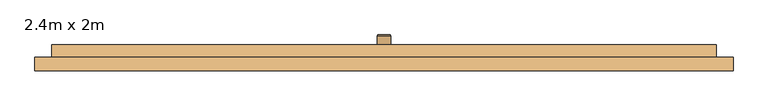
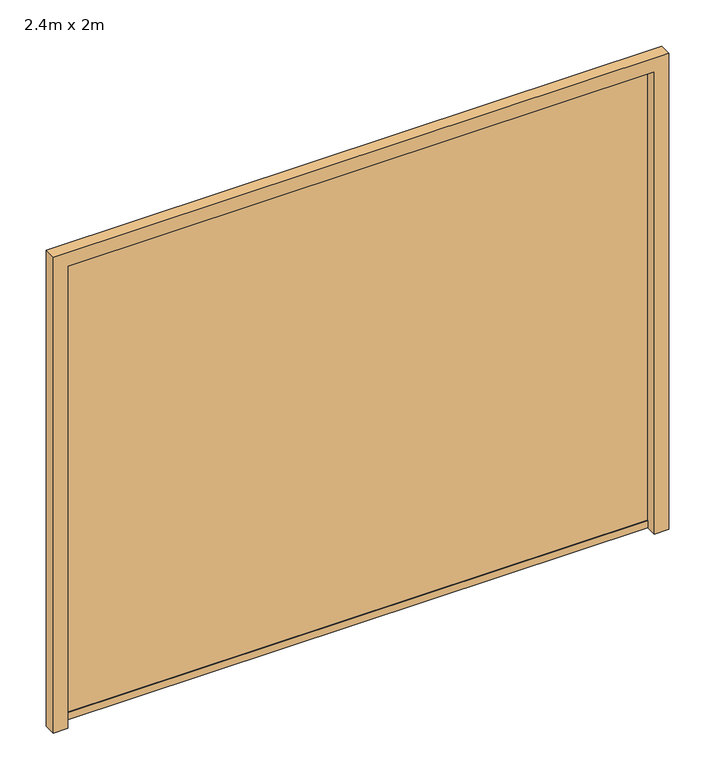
"""IFC4 building model written with IfcOpenShell, lengths in millimetres: door geometry, Garage basculante : 2.4m x 2m."""

import ifcopenshell
import ifcopenshell.guid

model = None  # the IFC model being written
_history = None  # IfcOwnerHistory: only IFC2X3 demands one
_inside = {}  # id of a spatial element -> (the spatial element, [elements in it])
_under = {}  # id of a project, library or spatial element -> (it, [spatial elements below it])
_declared = {}  # id of a project -> (the project, [libraries it declares])
_typed = {}  # id of a type object -> (the type object, [elements of that type])
_made_of = {}  # id of a material, layer set ... -> (it, [elements and type objects made of it])


def new_model(schema):
    """Start an empty IFC model of exactly this schema.

    Asked for "IFC4X3", IfcOpenShell would pick the latest addendum, in which some entities
    have other attributes; the version numbers below select the first issue.
    IFC2X3 requires an IfcOwnerHistory on every rooted entity: one is made here for all.
    """
    global model, _history
    if schema == "IFC4X3":
        model = ifcopenshell.file(schema_version=(4, 3, 0, 0))
    else:
        model = ifcopenshell.file(schema=schema)
    _inside.clear()
    _under.clear()
    _declared.clear()
    _typed.clear()
    _made_of.clear()
    _history = None
    if model.schema == "IFC2X3":
        org = make("IfcOrganization", Name="unknown")
        user = make(
            "IfcPersonAndOrganization",
            ThePerson=make("IfcPerson", FamilyName="unknown"),
            TheOrganization=org,
        )
        app = make(
            "IfcApplication",
            ApplicationDeveloper=org,
            Version="unknown",
            ApplicationFullName="unknown",
            ApplicationIdentifier="unknown",
        )
        _history = make(
            "IfcOwnerHistory",
            OwningUser=user,
            OwningApplication=app,
            ChangeAction="ADDED",
            CreationDate=0,
        )
    return model


def make(cls, **values):
    """One entity of the class cls with the attributes given. An attribute that is None is left unset."""
    return model.create_entity(
        cls, **{name: value for name, value in values.items() if value is not None}
    )


def rooted(cls, **values):
    """An entity with a GlobalId (a new one), such as an element, a storey or a relation."""
    return make(cls, GlobalId=ifcopenshell.guid.new(), OwnerHistory=_history, **values)


def si_unit(unit_type, name, prefix=None):
    """IfcSIUnit, for example si_unit("LENGTHUNIT", "METRE", prefix="MILLI")."""
    return make("IfcSIUnit", UnitType=unit_type, Prefix=prefix, Name=name)


def assignment(units):
    """IfcUnitAssignment: the units of a project."""
    return None if units is None else make("IfcUnitAssignment", Units=units)


def point(xyz):
    """IfcCartesianPoint."""
    return None if xyz is None else make("IfcCartesianPoint", Coordinates=xyz)


def direction(xyz):
    """IfcDirection."""
    return None if xyz is None else make("IfcDirection", DirectionRatios=xyz)


def frame(location, z_axis=None, x_axis=None):
    """IfcAxis2Placement3D, a coordinate frame: its origin and axes. An axis left out is left unset."""
    return make(
        "IfcAxis2Placement3D",
        Location=point(location),
        Axis=direction(z_axis),
        RefDirection=direction(x_axis),
    )


def origin():
    """The frame at (0, 0, 0) with its axes left unset."""
    return frame((0.0, 0.0, 0.0))


def place(relative_to, where):
    """IfcLocalPlacement: puts the frame where relative to a parent placement (None: the world)."""
    return make(
        "IfcLocalPlacement", PlacementRelTo=relative_to, RelativePlacement=where
    )


def context(
    kind, dimensions, precision=None, world=None, true_north=None, identifier=None
):
    """IfcGeometricRepresentationContext, for example the 3D "Model" context."""
    return make(
        "IfcGeometricRepresentationContext",
        ContextIdentifier=identifier,
        ContextType=kind,
        CoordinateSpaceDimension=dimensions,
        Precision=precision,
        WorldCoordinateSystem=world,
        TrueNorth=true_north,
    )


def project(units=None, contexts=None):
    """IfcProject with its units and contexts."""
    return rooted(
        "IfcProject",
        Name="project",
        RepresentationContexts=contexts,
        UnitsInContext=assignment(units),
    )


def spatial(cls, under=None, at=None, **own):
    """A site, building, storey or space (cls), placed at a placement, below another one or the project."""
    s = rooted(cls, ObjectPlacement=at, **own)
    if under is not None:
        _under.setdefault(under.id(), (under, []))[1].append(s)
    return s


def polyline(points):
    """IfcPolyline through the points."""
    return make("IfcPolyline", Points=[point(p) for p in points])


def circle_curve(where, radius):
    """IfcCircle in the frame where."""
    return make("IfcCircle", Position=where, Radius=radius)


def outline(outer, holes=None, kind="AREA"):
    """IfcArbitraryClosedProfileDef: a profile drawn as a closed curve; with holes, ...WithVoids."""
    if holes is None:
        return make("IfcArbitraryClosedProfileDef", ProfileType=kind, OuterCurve=outer)
    return make(
        "IfcArbitraryProfileDefWithVoids",
        ProfileType=kind,
        OuterCurve=outer,
        InnerCurves=holes,
    )


def extrude(swept, where, along, depth):
    """IfcExtrudedAreaSolid: the profile swept, set in the frame where, extruded along a direction by depth."""
    return make(
        "IfcExtrudedAreaSolid",
        SweptArea=swept,
        Position=where,
        ExtrudedDirection=direction(along),
        Depth=depth,
    )


def faces_of(points, faces, orient=None, outer=None):
    """IfcFace entities. A face is a list of loops; a loop is a list of indices into points, from 0.

    orient and outer hold one flag for each loop. By default every Orientation is true, the
    first loop of a face is its IfcFaceOuterBound and the others are IfcFaceBound.
    """
    made = []
    for i, loops in enumerate(faces):
        bounds = []
        for j, loop in enumerate(loops):
            is_outer = j == 0 if outer is None else outer[i][j]
            bounds.append(
                make(
                    "IfcFaceOuterBound" if is_outer else "IfcFaceBound",
                    Bound=make("IfcPolyLoop", Polygon=[points[k] for k in loop]),
                    Orientation=True if orient is None else orient[i][j],
                )
            )
        made.append(make("IfcFace", Bounds=bounds))
    return made


def faceted_brep(points, faces, orient=None, outer=None, voids=None):
    """IfcFacetedBrep: a solid bounded by flat faces; with voids (closed shells), ...WithVoids."""
    shared = [point(p) for p in points]
    hull = make("IfcClosedShell", CfsFaces=faces_of(shared, faces, orient, outer))
    if voids is None:
        return make("IfcFacetedBrep", Outer=hull)
    return make(
        "IfcFacetedBrepWithVoids",
        Outer=hull,
        Voids=[
            make(cls, CfsFaces=faces_of(shared, fs, o, b)) for cls, fs, o, b in voids
        ],
    )


def shape(context_of_items, identifier, shape_type, items):
    """IfcShapeRepresentation: the items that make up one representation, for example the "Body"."""
    return make(
        "IfcShapeRepresentation",
        ContextOfItems=context_of_items,
        RepresentationIdentifier=identifier,
        RepresentationType=shape_type,
        Items=items,
    )


def source(mapping_origin, context_of_items, identifier, shape_type, items):
    """IfcRepresentationMap: a shape defined once, which mapped items show again and again."""
    return make(
        "IfcRepresentationMap",
        MappingOrigin=mapping_origin,
        MappedRepresentation=shape(context_of_items, identifier, shape_type, items),
    )


def transform(
    local_origin,
    x_axis=None,
    y_axis=None,
    z_axis=None,
    scale=None,
    scale2=None,
    scale3=None,
    uniform=True,
):
    """IfcCartesianTransformationOperator3D, or its non-uniform kind. x_axis, y_axis, z_axis: its Axis1, 2, 3."""
    if uniform:
        return make(
            "IfcCartesianTransformationOperator3D",
            Axis1=direction(x_axis),
            Axis2=direction(y_axis),
            LocalOrigin=point(local_origin),
            Scale=scale,
            Axis3=direction(z_axis),
        )
    return make(
        "IfcCartesianTransformationOperator3DnonUniform",
        Axis1=direction(x_axis),
        Axis2=direction(y_axis),
        LocalOrigin=point(local_origin),
        Scale=scale,
        Axis3=direction(z_axis),
        Scale2=scale2,
        Scale3=scale3,
    )


def mapped(mapping_source, mapping_target):
    """IfcMappedItem: shows the shape of a source again, moved by a transform."""
    return make(
        "IfcMappedItem", MappingSource=mapping_source, MappingTarget=mapping_target
    )


def made_of(thing, what):
    """Note that an element or type object is made of a material, layer set ...; save() writes the relation."""
    if what is not None:
        _made_of.setdefault(what.id(), (what, []))[1].append(thing)
    return thing


def element(
    cls,
    number,
    at=None,
    inside=None,
    cuts=None,
    type_object=None,
    material=None,
    context=None,
    identifier="Body",
    shape_type=None,
    held_by="IfcProductDefinitionShape",
    body=None,
    shapes=None,
    **own,
):
    """One element of the class cls, such as IfcWall. Its Tag is "e" and its number.

    at: its placement. inside: the storey or other place that contains it. cuts: it is an
    opening in that element (IfcRelVoidsElement). A single representation is given by context,
    identifier, shape_type and body (its items); several are given by shapes. held_by: the class
    of the entity that holds the representations. save() writes the other relations.
    """
    e = rooted(cls, Tag="e%d" % number, ObjectPlacement=at, **own)
    if body is not None:
        shapes = [shape(context, identifier, shape_type, body)]
    if shapes is not None:
        e.Representation = make(held_by, Representations=shapes)
    if inside is not None:
        _inside.setdefault(inside.id(), (inside, []))[1].append(e)
    if cuts is not None:
        rooted(
            "IfcRelVoidsElement", RelatingBuildingElement=cuts, RelatedOpeningElement=e
        )
    if type_object is not None:
        _typed.setdefault(type_object.id(), (type_object, []))[1].append(e)
    return made_of(e, material)


def aggregate(whole, parts):
    """IfcRelAggregates: a whole, such as a stair, and the parts it consists of."""
    return rooted("IfcRelAggregates", RelatingObject=whole, RelatedObjects=parts)


def save(model, path):
    """Write the relations noted so far, then the file.

    IfcRelAggregates (storeys below a building ...), IfcRelContainedInSpatialStructure (elements
    in a storey), IfcRelDefinesByType, IfcRelAssociatesMaterial and IfcRelDeclares: one each for
    every whole, place, type object, material and project.
    """
    for whole, parts in _under.values():
        aggregate(whole, parts)
    for where, things in _inside.values():
        rooted(
            "IfcRelContainedInSpatialStructure",
            RelatedElements=things,
            RelatingStructure=where,
        )
    for kind, things in _typed.values():
        rooted("IfcRelDefinesByType", RelatedObjects=things, RelatingType=kind)
    for what, things in _made_of.values():
        rooted("IfcRelAssociatesMaterial", RelatedObjects=things, RelatingMaterial=what)
    for by, libraries in _declared.values():
        rooted("IfcRelDeclares", RelatingContext=by, RelatedDefinitions=libraries)
    model.write(path)


def plane_surface(at):
    """IfcPlane: the flat surface through the origin of the frame at, square to its z axis."""
    return make("IfcPlane", Position=at)


def cylinder_surface(at, radius):
    """IfcCylindricalSurface: all points at the distance radius from the z axis of the frame at."""
    return make("IfcCylindricalSurface", Position=at, Radius=radius)


def revolved_surface(curve, axis_point, axis_direction):
    """IfcSurfaceOfRevolution: the curve turned about the line through axis_point along axis_direction."""
    return make(
        "IfcSurfaceOfRevolution",
        SweptCurve=make("IfcArbitraryOpenProfileDef", ProfileType="CURVE", Curve=curve),
        AxisPosition=make("IfcAxis1Placement", Location=point(axis_point), Axis=direction(axis_direction)),
    )


def advanced_brep(points, edges, surfaces, faces):
    """IfcAdvancedBrep: a solid bounded by faces that lie on surfaces and meet in shared edges.

    An edge is (start, end): straight between two places in points (the first is 0);
    or (start, end, curve); or (start, end, curve, False) where it runs against its curve.
    A face is (place in surfaces, loops), or (place, loops, False) where it looks against
    its surface's normal. A loop lists edges by number (the first is 1), with a minus sign
    where the edge is run from its end to its start. The first loop is the outer one.
    """
    corners = [point(p) for p in points]
    vertices = [make("IfcVertexPoint", VertexGeometry=c) for c in corners]
    made = []
    for start, end, *more in edges:
        made.append(
            make(
                "IfcEdgeCurve",
                EdgeStart=vertices[start],
                EdgeEnd=vertices[end],
                EdgeGeometry=more[0] if more else make("IfcPolyline", Points=[corners[start], corners[end]]),
                SameSense=more[1] if len(more) > 1 else True,
            )
        )
    hull = []
    for where, loops, *sense in faces:
        bounds = []
        for j, loop in enumerate(loops):
            ring = [make("IfcOrientedEdge", EdgeElement=made[abs(k) - 1], Orientation=k > 0) for k in loop]
            bounds.append(
                make(
                    "IfcFaceOuterBound" if j == 0 else "IfcFaceBound",
                    Bound=make("IfcEdgeLoop", EdgeList=ring),
                    Orientation=True,
                )
            )
        hull.append(make("IfcAdvancedFace", Bounds=bounds, FaceSurface=surfaces[where], SameSense=sense[0] if sense else True))
    return make("IfcAdvancedBrep", Outer=make("IfcClosedShell", CfsFaces=hull))


def door_2_4m_x_2m_68821987(model_context):
    return source(origin(), model_context, "Body", "SolidModel", [
        advanced_brep(
        [(-37.902088, -383.5523258, 500.0), (7.902088, -383.5523258, 500.0), (10.0, -385.6502378, 500.0), (-40.0, -385.6502378, 500.0), (-15.0, -383.5523258, 500.0), (-40.0, -423.5523258, 500.0), (10.0, -423.5523258, 500.0), (-15.0, -423.5523258, 500.0)],
        [
            (0, 1, circle_curve(frame((-15.0, -383.5523258, 500.0), z_axis=(0.0, -1.0, 0.0), x_axis=(1.0, 0.0, 0.0)), 22.902088)),
            (1, 2),
            (2, 3, circle_curve(frame((-15.0, -385.6502378, 500.0), z_axis=(0.0, 1.0, 0.0), x_axis=(1.0, 0.0, 0.0)), 25.0)),
            (3, 0),
            (1, 0, circle_curve(frame((-15.0, -383.5523258, 500.0), z_axis=(0.0, -1.0, 0.0), x_axis=(1.0, 0.0, 0.0)), 22.902088)),
            (3, 2, circle_curve(frame((-15.0, -385.6502378, 500.0), z_axis=(0.0, 1.0, 0.0), x_axis=(1.0, 0.0, 0.0)), 25.0)),
            (4, 1),
            (0, 4),
            (5, 6, circle_curve(frame((-15.0, -423.5523258, 500.0), z_axis=(0.0, -1.0, 0.0), x_axis=(1.0, 0.0, 0.0)), 25.0)),
            (6, 7),
            (7, 5),
            (6, 5, circle_curve(frame((-15.0, -423.5523258, 500.0), z_axis=(0.0, -1.0, 0.0), x_axis=(1.0, 0.0, 0.0)), 25.0)),
            (2, 6),
            (5, 3),
        ],
        [
            revolved_surface(polyline([(10.0, -385.6502378, 500.0), (7.902088, -383.5523258, 500.0)]), (-15.0, 971.1651436, 500.0), (0.0, 1.0, 0.0)),
            plane_surface(frame((-15.0, -383.5523258, 500.0), z_axis=(0.0, 1.0, 0.0), x_axis=(1.0, 0.0, 0.0))),
            plane_surface(frame((-15.0, -423.5523258, 500.0), z_axis=(0.0, -1.0, 0.0), x_axis=(1.0, 0.0, 0.0))),
            cylinder_surface(frame((-15.0, 971.1651436, 500.0), z_axis=(0.0, 1.0, 0.0), x_axis=(1.0, 0.0, 0.0)), 25.0),
        ],
        [
            (0, [[1, 2, 3, 4]]),
            (0, [[5, -4, 6, -2]]),
            (1, [[7, -1, 8]]),
            (1, [[-8, -5, -7]]),
            (2, [[9, 10, 11]]),
            (2, [[12, -11, -10]]),
            (3, [[-3, 13, -9, 14]]),
            (3, [[-6, -14, -12, -13]]),
        ],
    ),
        faceted_brep([(-1215.0, -468.5523258, 2000.0), (1185.0, -468.5523258, 2000.0), (1185.0, -418.5523258, 2000.0), (-1215.0, -418.5523258, 2000.0), (1185.0, -468.5523258, 0.0), (-1215.0, -468.5523258, 0.0), (-1215.0, -418.5523258, 0.0), (1185.0, -418.5523258, 0.0), (1117.5806452, -433.5523258, 1970.0), (1117.5806452, -433.5523258, 30.0), (1097.5806452, -433.5523258, 30.0), (1097.5806452, -433.5523258, 1970.0), (1097.5806452, -423.5523258, 30.0), (1097.5806452, -423.5523258, 1970.0), (1040.1612903, -423.5523258, 30.0), (1040.1612903, -423.5523258, 1970.0), (1040.1612903, -433.5523258, 30.0), (1040.1612903, -433.5523258, 1970.0), (1020.1612903, -433.5523258, 30.0), (1020.1612903, -433.5523258, 1970.0), (1020.1612903, -423.5523258, 30.0), (1020.1612903, -423.5523258, 1970.0), (962.7419355, -423.5523258, 30.0), (962.7419355, -423.5523258, 1970.0), (962.7419355, -433.5523258, 30.0), (962.7419355, -433.5523258, 1970.0), (942.7419355, -433.5523258, 30.0), (942.7419355, -433.5523258, 1970.0), (942.7419355, -423.5523258, 30.0), (942.7419355, -423.5523258, 1970.0), (885.3225806, -423.5523258, 30.0), (885.3225806, -423.5523258, 1970.0), (885.3225806, -433.5523258, 30.0), (885.3225806, -433.5523258, 1970.0), (865.3225806, -433.5523258, 30.0), (865.3225806, -433.5523258, 1970.0), (865.3225806, -423.5523258, 30.0), (865.3225806, -423.5523258, 1970.0), (807.9032258, -423.5523258, 30.0), (807.9032258, -423.5523258, 1970.0), (807.9032258, -433.5523258, 30.0), (807.9032258, -433.5523258, 1970.0), (787.9032258, -433.5523258, 30.0), (787.9032258, -433.5523258, 1970.0), (787.9032258, -423.5523258, 30.0), (787.9032258, -423.5523258, 1970.0), (730.483871, -423.5523258, 30.0), (730.483871, -423.5523258, 1970.0), (730.483871, -433.5523258, 30.0), (730.483871, -433.5523258, 1970.0), (710.483871, -433.5523258, 30.0), (710.483871, -433.5523258, 1970.0), (710.483871, -423.5523258, 30.0), (710.483871, -423.5523258, 1970.0), (653.0645161, -423.5523258, 30.0), (653.0645161, -423.5523258, 1970.0), (653.0645161, -433.5523258, 30.0), (653.0645161, -433.5523258, 1970.0), (633.0645161, -433.5523258, 30.0), (633.0645161, -433.5523258, 1970.0), (633.0645161, -423.5523258, 30.0), (633.0645161, -423.5523258, 1970.0), (575.6451613, -423.5523258, 30.0), (575.6451613, -423.5523258, 1970.0), (575.6451613, -433.5523258, 30.0), (575.6451613, -433.5523258, 1970.0), (555.6451613, -433.5523258, 30.0), (555.6451613, -433.5523258, 1970.0), (555.6451613, -423.5523258, 30.0), (555.6451613, -423.5523258, 1970.0), (498.2258065, -423.5523258, 30.0), (498.2258065, -423.5523258, 1970.0), (498.2258065, -433.5523258, 30.0), (498.2258065, -433.5523258, 1970.0), (478.2258065, -433.5523258, 30.0), (478.2258065, -433.5523258, 1970.0), (478.2258065, -423.5523258, 30.0), (478.2258065, -423.5523258, 1970.0), (420.8064516, -423.5523258, 30.0), (420.8064516, -423.5523258, 1970.0), (420.8064516, -433.5523258, 30.0), (420.8064516, -433.5523258, 1970.0), (400.8064516, -433.5523258, 30.0), (400.8064516, -433.5523258, 1970.0), (400.8064516, -423.5523258, 30.0), (400.8064516, -423.5523258, 1970.0), (343.3870968, -423.5523258, 30.0), (343.3870968, -423.5523258, 1970.0), (343.3870968, -433.5523258, 30.0), (343.3870968, -433.5523258, 1970.0), (323.3870968, -433.5523258, 30.0), (323.3870968, -433.5523258, 1970.0), (323.3870968, -423.5523258, 30.0), (323.3870968, -423.5523258, 1970.0), (265.9677419, -423.5523258, 30.0), (265.9677419, -423.5523258, 1970.0), (265.9677419, -433.5523258, 30.0), (265.9677419, -433.5523258, 1970.0), (245.9677419, -433.5523258, 30.0), (245.9677419, -433.5523258, 1970.0), (245.9677419, -423.5523258, 30.0), (245.9677419, -423.5523258, 1970.0), (188.5483871, -423.5523258, 30.0), (188.5483871, -423.5523258, 1970.0), (188.5483871, -433.5523258, 30.0), (188.5483871, -433.5523258, 1970.0), (168.5483871, -433.5523258, 30.0), (168.5483871, -433.5523258, 1970.0), (168.5483871, -423.5523258, 30.0), (168.5483871, -423.5523258, 1970.0), (111.1290323, -423.5523258, 30.0), (111.1290323, -423.5523258, 1970.0), (111.1290323, -433.5523258, 30.0), (111.1290323, -433.5523258, 1970.0), (91.1290323, -433.5523258, 30.0), (91.1290323, -433.5523258, 1970.0), (91.1290323, -423.5523258, 30.0), (91.1290323, -423.5523258, 1970.0), (33.7096774, -423.5523258, 30.0), (33.7096774, -423.5523258, 1970.0), (33.7096774, -433.5523258, 30.0), (33.7096774, -433.5523258, 1970.0), (13.7096774, -433.5523258, 30.0), (13.7096774, -433.5523258, 1970.0), (13.7096774, -423.5523258, 30.0), (13.7096774, -423.5523258, 1970.0), (-43.7096774, -423.5523258, 30.0), (-43.7096774, -423.5523258, 1970.0), (-43.7096774, -433.5523258, 30.0), (-43.7096774, -433.5523258, 1970.0), (-63.7096774, -433.5523258, 30.0), (-63.7096774, -433.5523258, 1970.0), (-63.7096774, -423.5523258, 30.0), (-63.7096774, -423.5523258, 1970.0), (-121.1290323, -423.5523258, 30.0), (-121.1290323, -423.5523258, 1970.0), (-121.1290323, -433.5523258, 30.0), (-121.1290323, -433.5523258, 1970.0), (-141.1290323, -433.5523258, 30.0), (-141.1290323, -433.5523258, 1970.0), (-141.1290323, -423.5523258, 30.0), (-141.1290323, -423.5523258, 1970.0), (-198.5483871, -423.5523258, 30.0), (-198.5483871, -423.5523258, 1970.0), (-198.5483871, -433.5523258, 30.0), (-198.5483871, -433.5523258, 1970.0), (-218.5483871, -433.5523258, 30.0), (-218.5483871, -433.5523258, 1970.0), (-218.5483871, -423.5523258, 30.0), (-218.5483871, -423.5523258, 1970.0), (-275.9677419, -423.5523258, 30.0), (-275.9677419, -423.5523258, 1970.0), (-275.9677419, -433.5523258, 30.0), (-275.9677419, -433.5523258, 1970.0), (-295.9677419, -433.5523258, 30.0), (-295.9677419, -433.5523258, 1970.0), (-295.9677419, -423.5523258, 30.0), (-295.9677419, -423.5523258, 1970.0), (-353.3870968, -423.5523258, 30.0), (-353.3870968, -423.5523258, 1970.0), (-353.3870968, -433.5523258, 30.0), (-353.3870968, -433.5523258, 1970.0), (-373.3870968, -433.5523258, 30.0), (-373.3870968, -433.5523258, 1970.0), (-373.3870968, -423.5523258, 30.0), (-373.3870968, -423.5523258, 1970.0), (-430.8064516, -423.5523258, 30.0), (-430.8064516, -423.5523258, 1970.0), (-430.8064516, -433.5523258, 30.0), (-430.8064516, -433.5523258, 1970.0), (-450.8064516, -433.5523258, 30.0), (-450.8064516, -433.5523258, 1970.0), (-450.8064516, -423.5523258, 30.0), (-450.8064516, -423.5523258, 1970.0), (-508.2258065, -423.5523258, 30.0), (-508.2258065, -423.5523258, 1970.0), (-508.2258065, -433.5523258, 30.0), (-508.2258065, -433.5523258, 1970.0), (-528.2258065, -433.5523258, 30.0), (-528.2258065, -433.5523258, 1970.0), (-528.2258065, -423.5523258, 30.0), (-528.2258065, -423.5523258, 1970.0), (-585.6451613, -423.5523258, 30.0), (-585.6451613, -423.5523258, 1970.0), (-585.6451613, -433.5523258, 30.0), (-585.6451613, -433.5523258, 1970.0), (-605.6451613, -433.5523258, 30.0), (-605.6451613, -433.5523258, 1970.0), (-605.6451613, -423.5523258, 30.0), (-605.6451613, -423.5523258, 1970.0), (-663.0645161, -423.5523258, 30.0), (-663.0645161, -423.5523258, 1970.0), (-663.0645161, -433.5523258, 30.0), (-663.0645161, -433.5523258, 1970.0), (-683.0645161, -433.5523258, 30.0), (-683.0645161, -433.5523258, 1970.0), (-683.0645161, -423.5523258, 30.0), (-683.0645161, -423.5523258, 1970.0), (-740.483871, -423.5523258, 30.0), (-740.483871, -423.5523258, 1970.0), (-740.483871, -433.5523258, 30.0), (-740.483871, -433.5523258, 1970.0), (-760.483871, -433.5523258, 30.0), (-760.483871, -433.5523258, 1970.0), (-760.483871, -423.5523258, 30.0), (-760.483871, -423.5523258, 1970.0), (-817.9032258, -423.5523258, 30.0), (-817.9032258, -423.5523258, 1970.0), (-817.9032258, -433.5523258, 30.0), (-817.9032258, -433.5523258, 1970.0), (-837.9032258, -433.5523258, 30.0), (-837.9032258, -433.5523258, 1970.0), (-837.9032258, -423.5523258, 30.0), (-837.9032258, -423.5523258, 1970.0), (-895.3225806, -423.5523258, 30.0), (-895.3225806, -423.5523258, 1970.0), (-895.3225806, -433.5523258, 30.0), (-895.3225806, -433.5523258, 1970.0), (-915.3225806, -433.5523258, 30.0), (-915.3225806, -433.5523258, 1970.0), (-915.3225806, -423.5523258, 30.0), (-915.3225806, -423.5523258, 1970.0), (-972.7419355, -423.5523258, 30.0), (-972.7419355, -423.5523258, 1970.0), (-972.7419355, -433.5523258, 30.0), (-972.7419355, -433.5523258, 1970.0), (-992.7419355, -433.5523258, 30.0), (-992.7419355, -433.5523258, 1970.0), (-992.7419355, -423.5523258, 30.0), (-992.7419355, -423.5523258, 1970.0), (-1050.1612903, -423.5523258, 30.0), (-1050.1612903, -423.5523258, 1970.0), (-1050.1612903, -433.5523258, 30.0), (-1050.1612903, -433.5523258, 1970.0), (-1070.1612903, -433.5523258, 30.0), (-1070.1612903, -433.5523258, 1970.0), (-1070.1612903, -423.5523258, 30.0), (-1070.1612903, -423.5523258, 1970.0), (-1127.5806452, -423.5523258, 30.0), (-1127.5806452, -423.5523258, 1970.0), (-1127.5806452, -433.5523258, 30.0), (-1127.5806452, -433.5523258, 1970.0), (-1147.5806452, -433.5523258, 30.0), (-1147.5806452, -433.5523258, 1970.0), (-1147.5806452, -423.5523258, 30.0), (-1147.5806452, -423.5523258, 1970.0), (-1215.0, -423.5523258, 30.0), (-1215.0, -423.5523258, 1970.0), (-1215.0, -418.5523258, 1970.0), (-1215.0, -418.5523258, 30.0), (-1215.0, -468.5523258, 30.0), (-1215.0, -463.5523258, 30.0), (-1215.0, -463.5523258, 1970.0), (-1215.0, -468.5523258, 1970.0), (1185.0, -463.5523258, 30.0), (1185.0, -463.5523258, 1970.0), (1185.0, -468.5523258, 1970.0), (1185.0, -468.5523258, 30.0), (1185.0, -418.5523258, 30.0), (1185.0, -423.5523258, 30.0), (1185.0, -423.5523258, 1970.0), (1185.0, -418.5523258, 1970.0), (1117.5806452, -423.5523258, 30.0), (1117.5806452, -423.5523258, 1970.0)], [[[0, 1, 2, 3]], [[4, 5, 6, 7]], [[8, 9, 10, 11]], [[11, 10, 12, 13]], [[13, 12, 14, 15]], [[15, 14, 16, 17]], [[17, 16, 18, 19]], [[19, 18, 20, 21]], [[21, 20, 22, 23]], [[23, 22, 24, 25]], [[25, 24, 26, 27]], [[27, 26, 28, 29]], [[29, 28, 30, 31]], [[31, 30, 32, 33]], [[33, 32, 34, 35]], [[35, 34, 36, 37]], [[37, 36, 38, 39]], [[39, 38, 40, 41]], [[41, 40, 42, 43]], [[43, 42, 44, 45]], [[45, 44, 46, 47]], [[47, 46, 48, 49]], [[49, 48, 50, 51]], [[51, 50, 52, 53]], [[53, 52, 54, 55]], [[55, 54, 56, 57]], [[57, 56, 58, 59]], [[59, 58, 60, 61]], [[61, 60, 62, 63]], [[63, 62, 64, 65]], [[65, 64, 66, 67]], [[67, 66, 68, 69]], [[69, 68, 70, 71]], [[71, 70, 72, 73]], [[73, 72, 74, 75]], [[75, 74, 76, 77]], [[77, 76, 78, 79]], [[79, 78, 80, 81]], [[81, 80, 82, 83]], [[83, 82, 84, 85]], [[85, 84, 86, 87]], [[87, 86, 88, 89]], [[89, 88, 90, 91]], [[91, 90, 92, 93]], [[93, 92, 94, 95]], [[95, 94, 96, 97]], [[97, 96, 98, 99]], [[99, 98, 100, 101]], [[101, 100, 102, 103]], [[103, 102, 104, 105]], [[105, 104, 106, 107]], [[107, 106, 108, 109]], [[109, 108, 110, 111]], [[111, 110, 112, 113]], [[113, 112, 114, 115]], [[115, 114, 116, 117]], [[117, 116, 118, 119]], [[119, 118, 120, 121]], [[121, 120, 122, 123]], [[123, 122, 124, 125]], [[125, 124, 126, 127]], [[127, 126, 128, 129]], [[129, 128, 130, 131]], [[131, 130, 132, 133]], [[133, 132, 134, 135]], [[135, 134, 136, 137]], [[137, 136, 138, 139]], [[139, 138, 140, 141]], [[141, 140, 142, 143]], [[143, 142, 144, 145]], [[145, 144, 146, 147]], [[147, 146, 148, 149]], [[149, 148, 150, 151]], [[151, 150, 152, 153]], [[153, 152, 154, 155]], [[155, 154, 156, 157]], [[157, 156, 158, 159]], [[159, 158, 160, 161]], [[161, 160, 162, 163]], [[163, 162, 164, 165]], [[165, 164, 166, 167]], [[167, 166, 168, 169]], [[169, 168, 170, 171]], [[171, 170, 172, 173]], [[173, 172, 174, 175]], [[175, 174, 176, 177]], [[177, 176, 178, 179]], [[179, 178, 180, 181]], [[181, 180, 182, 183]], [[183, 182, 184, 185]], [[185, 184, 186, 187]], [[187, 186, 188, 189]], [[189, 188, 190, 191]], [[191, 190, 192, 193]], [[193, 192, 194, 195]], [[195, 194, 196, 197]], [[197, 196, 198, 199]], [[199, 198, 200, 201]], [[201, 200, 202, 203]], [[203, 202, 204, 205]], [[205, 204, 206, 207]], [[207, 206, 208, 209]], [[209, 208, 210, 211]], [[211, 210, 212, 213]], [[213, 212, 214, 215]], [[215, 214, 216, 217]], [[217, 216, 218, 219]], [[219, 218, 220, 221]], [[221, 220, 222, 223]], [[223, 222, 224, 225]], [[225, 224, 226, 227]], [[227, 226, 228, 229]], [[229, 228, 230, 231]], [[231, 230, 232, 233]], [[233, 232, 234, 235]], [[235, 234, 236, 237]], [[237, 236, 238, 239]], [[239, 238, 240, 241]], [[241, 240, 242, 243]], [[243, 242, 244, 245]], [[245, 244, 246, 247]], [[0, 3, 248, 247, 246, 249, 6, 5, 250, 251, 252, 253]], [[252, 251, 254, 255]], [[2, 1, 256, 255, 254, 257, 4, 7, 258, 259, 260, 261]], [[260, 259, 262, 263]], [[9, 8, 263, 262]], [[256, 253, 252, 255]], [[248, 261, 260, 263, 8, 11, 13, 15, 17, 19, 21, 23, 25, 27, 29, 31, 33, 35, 37, 39, 41, 43, 45, 47, 49, 51, 53, 55, 57, 59, 61, 63, 65, 67, 69, 71, 73, 75, 77, 79, 81, 83, 85, 87, 89, 91, 93, 95, 97, 99, 101, 103, 105, 107, 109, 111, 113, 115, 117, 119, 121, 123, 125, 127, 129, 131, 133, 135, 137, 139, 141, 143, 145, 147, 149, 151, 153, 155, 157, 159, 161, 163, 165, 167, 169, 171, 173, 175, 177, 179, 181, 183, 185, 187, 189, 191, 193, 195, 197, 199, 201, 203, 205, 207, 209, 211, 213, 215, 217, 219, 221, 223, 225, 227, 229, 231, 233, 235, 237, 239, 241, 243, 245, 247]], [[2, 261, 248, 3]], [[256, 1, 0, 253]], [[4, 257, 250, 5]], [[258, 7, 6, 249]], [[250, 257, 254, 251]], [[258, 249, 246, 244, 242, 240, 238, 236, 234, 232, 230, 228, 226, 224, 222, 220, 218, 216, 214, 212, 210, 208, 206, 204, 202, 200, 198, 196, 194, 192, 190, 188, 186, 184, 182, 180, 178, 176, 174, 172, 170, 168, 166, 164, 162, 160, 158, 156, 154, 152, 150, 148, 146, 144, 142, 140, 138, 136, 134, 132, 130, 128, 126, 124, 122, 120, 118, 116, 114, 112, 110, 108, 106, 104, 102, 100, 98, 96, 94, 92, 90, 88, 86, 84, 82, 80, 78, 76, 74, 72, 70, 68, 66, 64, 62, 60, 58, 56, 54, 52, 50, 48, 46, 44, 42, 40, 38, 36, 34, 32, 30, 28, 26, 24, 22, 20, 18, 16, 14, 12, 10, 9, 262, 259]]]),
        extrude(outline(polyline([(0.0, -1275.0), (0.0, -1215.0), (2000.0, -1215.0), (2000.0, 1185.0), (0.0, 1185.0), (0.0, 1245.0), (2060.0, 1245.0), (2060.0, -1275.0), (0.0, -1275.0)])), frame((0.0, -513.5523258, 0.0), z_axis=(0.0, 1.0, 0.0), x_axis=(0.0, 0.0, 1.0)), (0.0, 0.0, 1.0), 50.0),
    ])


if __name__ == "__main__":
    model = new_model("IFC4")
    model_context = context("Model", 3, world=origin())
    ifc_project = project(units=[si_unit("LENGTHUNIT", "METRE", prefix="MILLI")], contexts=[model_context])
    site = spatial("IfcSite", under=ifc_project)
    building = spatial("IfcBuilding", under=site)
    placement = place(None, origin())
    door_2_4m_x_2m_shape = door_2_4m_x_2m_68821987(model_context)
    element("IfcDoor", 1, ObjectType="Garage basculante : 2.4m x 2m", at=placement, inside=building, context=model_context, shape_type="MappedRepresentation", body=[
        mapped(door_2_4m_x_2m_shape, transform((0.0, 0.0, 0.0), x_axis=(1.0, 0.0, 0.0), y_axis=(0.0, 1.0, 0.0), z_axis=(0.0, 0.0, 1.0))),
    ])
    save(model, "model.ifc")
